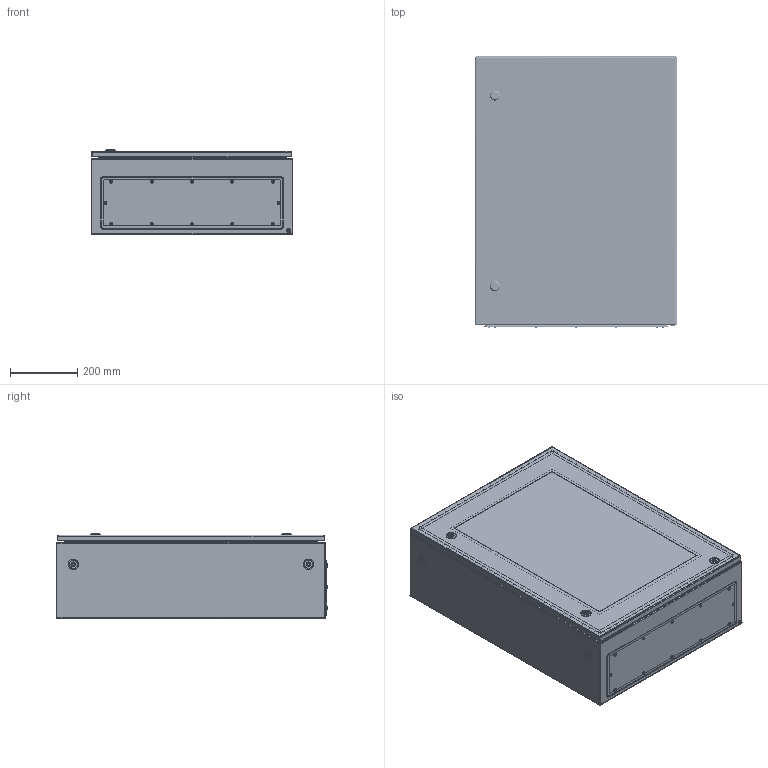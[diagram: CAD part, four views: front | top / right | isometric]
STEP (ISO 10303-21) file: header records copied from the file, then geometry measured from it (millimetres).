
FILE_DESCRIPTION (( 'STEP AP214' ), '1' );
FILE_NAME ('CCV 80.60.25.STEP', '2025-09-18T13:47:15', ( '' ), ( '' ), 'SwSTEP 2.0', 'SolidWorks 2019', '' );
FILE_SCHEMA (( 'AUTOMOTIVE_DESIGN' ));
Length unit declared in the file: millimetre
Products named in the file (28): ﾇ瑟鶴 LC 5DB.S; Ïåòëÿ KIT_Ìîäóëü_êîðïóñíàÿ ÷àñòü; Çàìîê LC 5DB.S_‡ ¬®ª LC 5DB.S_45mm; Ïåòëÿ KIT_Ìîäóëü_êîðïóñíàÿ ÷àñòü â ñáîðå; Essentra_d6,3_1287228; Âèíò ðåçüáîâûäàâëèâàþùèé ñ ïîëóïîòàéíîé ãîëîâêîé Ì5õ12; KIT_Øòèôò_ô5_Ìîäóëü; CCS X.Y.Z.01.001 扻豵鵨_CCS 80.60.25; plain washer grade a_din_Washer DIN 125 - A 5.3; hex flange nut_din_Hexagon Flange Nut DIN 6923 - M8 - N; Øïèëüêà çàçåìëåíèÿ Ì6õ17,5_˜¯¨«ìª  § §¥¬«¥­¨ï Œ6å17,5; Øïèëüêà çàçåìëåíèÿ Ì6õ17,5_˜¯¨«ìª  § §¥¬«¥­¨ï Œ6å17,5 á ª®«¯ çª®¬; CCV X.Y.02.001 拟屦黖CCV 80.60; MPC X.Y Ïàíåëü ìîíòàæíàÿ_MPC 80.60; CCV 80.60.25; PKV Y.15 相礤朦 赅徨朦眍泐 忖钿郷PKV 60(15); KIT_Çàæèìíîå êîëüöî_ïîëèîêñèìåòèëåí_ô5_EMKA 1031-U16; ßçû÷îê çàìêà LC 5DB.S; Ãàéêà Ì8 DIN 934; Øïèëüêà Ì8õ25; pan head cross recess screw_din_DIN EN ISO 7045 - M5 x 6 - Z - 6N; Ïåòëÿ ïðèâàðíàÿ ÷àñòü; Essentra_d9.3_055009300003; CCV X.Y.02.000蚜 拟屦黖CCV 80.60; CCS X.Y.Z.01.000捘 扻豵鵨_CCS 80.60.25; CCV X.Y.02.002 栺樏鋋_CCV 80.60
Assembly tree (67 placements, depth 3):
  CCV 80.60.25
    CCS X.Y.Z.01.000捘 扻豵鵨_CCS 80.60.25
      CCS X.Y.Z.01.001 扻豵鵨_CCS 80.60.25
      Øïèëüêà çàçåìëåíèÿ Ì6õ17,5_˜¯¨«ìª  § §¥¬«¥­¨ï Œ6å17,5  x4
      Øïèëüêà Ì8õ25  x6
    Ïåòëÿ KIT_Ìîäóëü_êîðïóñíàÿ ÷àñòü â ñáîðå
      Ïåòëÿ KIT_Ìîäóëü_êîðïóñíàÿ ÷àñòü
      KIT_Øòèôò_ô5_Ìîäóëü
      KIT_Çàæèìíîå êîëüöî_ïîëèîêñèìåòèëåí_ô5_EMKA 1031-U16
    Ïåòëÿ KIT_Ìîäóëü_êîðïóñíàÿ ÷àñòü â ñáîðå
      Ïåòëÿ KIT_Ìîäóëü_êîðïóñíàÿ ÷àñòü
      KIT_Øòèôò_ô5_Ìîäóëü
      KIT_Çàæèìíîå êîëüöî_ïîëèîêñèìåòèëåí_ô5_EMKA 1031-U16
    CCV X.Y.02.000蚜 拟屦黖CCV 80.60
      CCV X.Y.02.001 拟屦黖CCV 80.60
      Øïèëüêà çàçåìëåíèÿ Ì6õ17,5_˜¯¨«ìª  § §¥¬«¥­¨ï Œ6å17,5 á ª®«¯ çª®¬
      CCV X.Y.02.002 栺樏鋋_CCV 80.60
      Ïåòëÿ ïðèâàðíàÿ ÷àñòü  x2
    MPC X.Y Ïàíåëü ìîíòàæíàÿ_MPC 80.60
    PKV Y.15 相礤朦 赅徨朦眍泐 忖钿郷PKV 60(15)
    pan head cross recess screw_din_DIN EN ISO 7045 - M5 x 6 - Z - 6N  x2
    plain washer grade a_din_Washer DIN 125 - A 5.3  x2
    Ãàéêà Ì8 DIN 934  x6
    hex flange nut_din_Hexagon Flange Nut DIN 6923 - M8 - N  x6
    Âèíò ðåçüáîâûäàâëèâàþùèé ñ ïîëóïîòàéíîé ãîëîâêîé Ì5õ12  x14
    Essentra_d9.3_055009300003
    Essentra_d6,3_1287228  x2
    Çàìîê LC 5DB.S_‡ ¬®ª LC 5DB.S_45mm
      ﾇ瑟鶴 LC 5DB.S
      ßçû÷îê çàìêà LC 5DB.S
    Çàìîê LC 5DB.S_‡ ¬®ª LC 5DB.S_45mm
      ﾇ瑟鶴 LC 5DB.S
      ßçû÷îê çàìêà LC 5DB.S
Bounding box: 600 x 806.62 x 253.65 mm (x, y, z)
Volume: 4268280 mm3; surface area: 4632659.9 mm2
Topology: 65 solids, 65 shells, 2778 faces, 6886 edges, 4268 vertices
Faces by surface type: plane 1048, cylinder 1007, cone 370, bspline 164, torus 144, sphere 45
Entity records: 51549 total; most frequent: CARTESIAN_POINT 20476, ORIENTED_EDGE 6134, DIRECTION 6076, EDGE_CURVE 3067, AXIS2_PLACEMENT_3D 2276, VERTEX_POINT 1907, VECTOR 1524, LINE 1524
